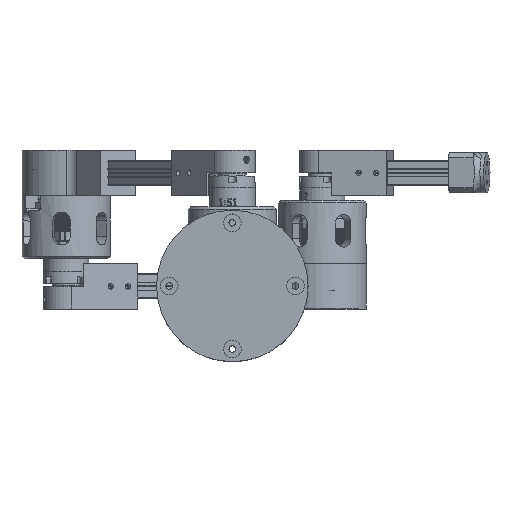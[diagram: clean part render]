
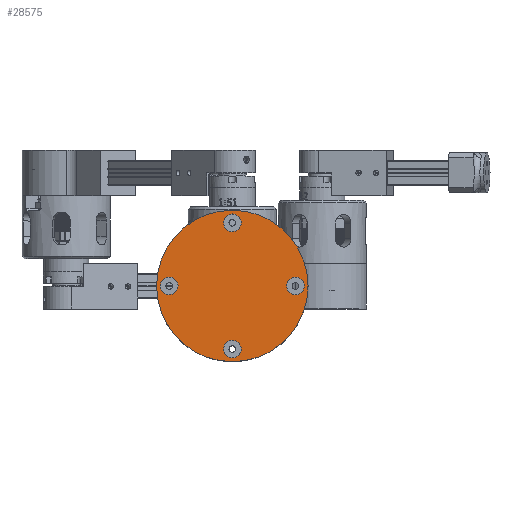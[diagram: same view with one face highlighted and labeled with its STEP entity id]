
A CAD part, top view. The second image highlights one B-rep face of the part: STEP entity #28575.
In plain terms, the highlighted planar face has unit normal (0, 0, 1) as drawn and (0, 1, 0) by its records, which use the part's own axes.
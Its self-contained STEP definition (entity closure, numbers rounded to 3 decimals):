
#1770=FACE_BOUND('',#4991,.T.);
#1771=FACE_BOUND('',#4992,.T.);
#1772=FACE_BOUND('',#4993,.T.);
#1773=FACE_BOUND('',#4994,.T.);
#3250=FACE_OUTER_BOUND('',#4990,.T.);
#4990=EDGE_LOOP('',(#25585));
#4991=EDGE_LOOP('',(#25586));
#4992=EDGE_LOOP('',(#25587));
#4993=EDGE_LOOP('',(#25588));
#4994=EDGE_LOOP('',(#25589));
#5638=CIRCLE('',#31092,7.);
#5642=CIRCLE('',#31099,7.);
#5646=CIRCLE('',#31106,7.);
#5650=CIRCLE('',#31113,7.);
#5652=CIRCLE('',#31117,60.);
#14208=VERTEX_POINT('',#48237);
#14212=VERTEX_POINT('',#48250);
#14216=VERTEX_POINT('',#48263);
#14220=VERTEX_POINT('',#48276);
#14222=VERTEX_POINT('',#48284);
#18007=EDGE_CURVE('',#14208,#14208,#5638,.T.);
#18013=EDGE_CURVE('',#14212,#14212,#5642,.T.);
#18019=EDGE_CURVE('',#14216,#14216,#5646,.T.);
#18025=EDGE_CURVE('',#14220,#14220,#5650,.T.);
#18029=EDGE_CURVE('',#14222,#14222,#5652,.T.);
#25585=ORIENTED_EDGE('',*,*,#18029,.T.);
#25586=ORIENTED_EDGE('',*,*,#18007,.T.);
#25587=ORIENTED_EDGE('',*,*,#18013,.T.);
#25588=ORIENTED_EDGE('',*,*,#18019,.T.);
#25589=ORIENTED_EDGE('',*,*,#18025,.T.);
#27059=PLANE('',#31119);
#28575=ADVANCED_FACE('',(#3250,#1770,#1771,#1772,#1773),#27059,.T.);
#31092=AXIS2_PLACEMENT_3D('',#48238,#38208,#38209);
#31099=AXIS2_PLACEMENT_3D('',#48251,#38224,#38225);
#31106=AXIS2_PLACEMENT_3D('',#48264,#38240,#38241);
#31113=AXIS2_PLACEMENT_3D('',#48277,#38256,#38257);
#31117=AXIS2_PLACEMENT_3D('',#48285,#38266,#38267);
#31119=AXIS2_PLACEMENT_3D('',#48289,#38271,#38272);
#38208=DIRECTION('center_axis',(0.,-1.,0.));
#38209=DIRECTION('ref_axis',(1.,0.,0.));
#38224=DIRECTION('center_axis',(0.,-1.,0.));
#38225=DIRECTION('ref_axis',(1.,0.,0.));
#38240=DIRECTION('center_axis',(0.,-1.,0.));
#38241=DIRECTION('ref_axis',(1.,0.,0.));
#38256=DIRECTION('center_axis',(0.,-1.,0.));
#38257=DIRECTION('ref_axis',(1.,0.,0.));
#38266=DIRECTION('center_axis',(0.,1.,0.));
#38267=DIRECTION('ref_axis',(-1.,0.,0.));
#38271=DIRECTION('center_axis',(0.,1.,0.));
#38272=DIRECTION('ref_axis',(0.,0.,1.));
#48237=CARTESIAN_POINT('',(-7.,70.,-50.));
#48238=CARTESIAN_POINT('Origin',(0.,70.,-50.));
#48250=CARTESIAN_POINT('',(-57.,70.,0.));
#48251=CARTESIAN_POINT('Origin',(-50.,70.,0.));
#48263=CARTESIAN_POINT('',(-7.,70.,50.));
#48264=CARTESIAN_POINT('Origin',(0.,70.,50.));
#48276=CARTESIAN_POINT('',(43.,70.,0.));
#48277=CARTESIAN_POINT('Origin',(50.,70.,0.));
#48284=CARTESIAN_POINT('',(60.,70.,0.));
#48285=CARTESIAN_POINT('Origin',(0.,70.,0.));
#48289=CARTESIAN_POINT('Origin',(0.,70.,0.));
